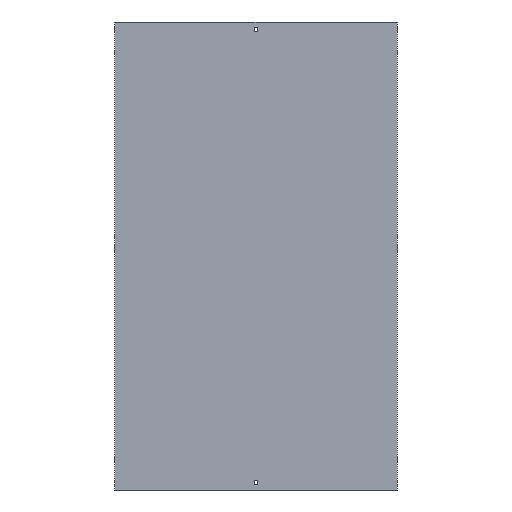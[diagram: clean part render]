
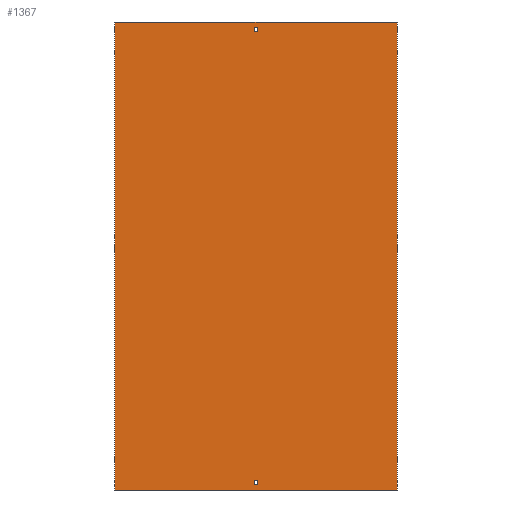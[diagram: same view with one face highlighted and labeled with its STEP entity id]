
A CAD part, front view. The second image highlights one B-rep face of the part: STEP entity #1367.
In plain terms, the highlighted planar face has unit normal (0, -1, 0).
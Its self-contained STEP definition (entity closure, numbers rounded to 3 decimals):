
#25 = VECTOR ( 'NONE', #2341, 1000. ) ;
#34 = CARTESIAN_POINT ( 'NONE',  ( 302., 0., 500. ) ) ;
#47 = CARTESIAN_POINT ( 'NONE',  ( -3.25, 0., 479. ) ) ;
#63 = ORIENTED_EDGE ( 'NONE', *, *, #2346, .F. ) ;
#72 = ORIENTED_EDGE ( 'NONE', *, *, #1962, .T. ) ;
#130 = CARTESIAN_POINT ( 'NONE',  ( -3.25, 0., 488. ) ) ;
#142 = EDGE_CURVE ( 'NONE', #599, #239, #1019, .T. ) ;
#178 = EDGE_CURVE ( 'NONE', #2197, #2073, #197, .T. ) ;
#197 = LINE ( 'NONE', #1264, #2430 ) ;
#209 = LINE ( 'NONE', #401, #25 ) ;
#214 = CARTESIAN_POINT ( 'NONE',  ( 302., 0., 500. ) ) ;
#239 = VERTEX_POINT ( 'NONE', #2756 ) ;
#315 = ORIENTED_EDGE ( 'NONE', *, *, #2106, .T. ) ;
#332 = ORIENTED_EDGE ( 'NONE', *, *, #1774, .T. ) ;
#337 = CARTESIAN_POINT ( 'NONE',  ( 3.25, 0., -488. ) ) ;
#356 = LINE ( 'NONE', #998, #1875 ) ;
#365 = FACE_BOUND ( 'NONE', #818, .T. ) ;
#377 = CARTESIAN_POINT ( 'NONE',  ( -3.25, 0., -488. ) ) ;
#388 = CARTESIAN_POINT ( 'NONE',  ( -3.25, 0., -479. ) ) ;
#394 = AXIS2_PLACEMENT_3D ( 'NONE', #2265, #544, #2024 ) ;
#401 = CARTESIAN_POINT ( 'NONE',  ( -3.25, 0., -488. ) ) ;
#488 = VERTEX_POINT ( 'NONE', #2448 ) ;
#544 = DIRECTION ( 'NONE',  ( 0., 1., 0. ) ) ;
#548 = CARTESIAN_POINT ( 'NONE',  ( -3.25, 0., -488. ) ) ;
#557 = FACE_BOUND ( 'NONE', #1972, .T. ) ;
#593 = CARTESIAN_POINT ( 'NONE',  ( 3.25, 0., 488. ) ) ;
#599 = VERTEX_POINT ( 'NONE', #792 ) ;
#621 = VERTEX_POINT ( 'NONE', #1720 ) ;
#622 = VECTOR ( 'NONE', #1777, 1000. ) ;
#644 = LINE ( 'NONE', #593, #2617 ) ;
#734 = CARTESIAN_POINT ( 'NONE',  ( 3.25, 0., 488. ) ) ;
#792 = CARTESIAN_POINT ( 'NONE',  ( -3.25, 0., -479. ) ) ;
#815 = DIRECTION ( 'NONE',  ( 0., 0., -1. ) ) ;
#818 = EDGE_LOOP ( 'NONE', ( #1719, #2108, #2407, #2615 ) ) ;
#824 = LINE ( 'NONE', #1860, #2343 ) ;
#896 = VERTEX_POINT ( 'NONE', #337 ) ;
#918 = VECTOR ( 'NONE', #2097, 1000. ) ;
#922 = LINE ( 'NONE', #1971, #622 ) ;
#933 = PLANE ( 'NONE',  #394 ) ;
#936 = LINE ( 'NONE', #1116, #1289 ) ;
#998 = CARTESIAN_POINT ( 'NONE',  ( -302., 0., 500. ) ) ;
#1019 = LINE ( 'NONE', #388, #918 ) ;
#1051 = DIRECTION ( 'NONE',  ( 0., 0., -1. ) ) ;
#1061 = VECTOR ( 'NONE', #2727, 1000. ) ;
#1075 = CARTESIAN_POINT ( 'NONE',  ( -3.25, 0., 488. ) ) ;
#1116 = CARTESIAN_POINT ( 'NONE',  ( -302., 0., -500. ) ) ;
#1187 = VERTEX_POINT ( 'NONE', #34 ) ;
#1264 = CARTESIAN_POINT ( 'NONE',  ( -3.25, 0., 479. ) ) ;
#1289 = VECTOR ( 'NONE', #1565, 1000. ) ;
#1367 = ADVANCED_FACE ( 'NONE', ( #2284, #365, #557 ), #933, .F. ) ;
#1430 = CARTESIAN_POINT ( 'NONE',  ( -302., 0., 500. ) ) ;
#1441 = EDGE_CURVE ( 'NONE', #2073, #2260, #644, .T. ) ;
#1454 = EDGE_CURVE ( 'NONE', #2103, #2197, #824, .T. ) ;
#1565 = DIRECTION ( 'NONE',  ( 1., 0., 0. ) ) ;
#1585 = CARTESIAN_POINT ( 'NONE',  ( -302., 0., 500. ) ) ;
#1719 = ORIENTED_EDGE ( 'NONE', *, *, #178, .F. ) ;
#1720 = CARTESIAN_POINT ( 'NONE',  ( -302., 0., -500. ) ) ;
#1722 = DIRECTION ( 'NONE',  ( -1., 0., 0. ) ) ;
#1759 = ORIENTED_EDGE ( 'NONE', *, *, #2075, .T. ) ;
#1774 = EDGE_CURVE ( 'NONE', #896, #2355, #209, .T. ) ;
#1777 = DIRECTION ( 'NONE',  ( 0., 0., -1. ) ) ;
#1836 = CARTESIAN_POINT ( 'NONE',  ( 3.25, 0., 479. ) ) ;
#1848 = EDGE_CURVE ( 'NONE', #2260, #2103, #2139, .T. ) ;
#1850 = DIRECTION ( 'NONE',  ( 0., 0., -1. ) ) ;
#1860 = CARTESIAN_POINT ( 'NONE',  ( -3.25, 0., 488. ) ) ;
#1875 = VECTOR ( 'NONE', #1850, 1000. ) ;
#1879 = LINE ( 'NONE', #1430, #1061 ) ;
#1892 = DIRECTION ( 'NONE',  ( 0., 0., 1. ) ) ;
#1900 = LINE ( 'NONE', #214, #2394 ) ;
#1942 = EDGE_CURVE ( 'NONE', #239, #896, #922, .T. ) ;
#1962 = EDGE_CURVE ( 'NONE', #621, #488, #936, .T. ) ;
#1971 = CARTESIAN_POINT ( 'NONE',  ( 3.25, 0., -488. ) ) ;
#1972 = EDGE_LOOP ( 'NONE', ( #1759, #2736, #2713, #332 ) ) ;
#2002 = EDGE_LOOP ( 'NONE', ( #72, #2546, #63, #315 ) ) ;
#2024 = DIRECTION ( 'NONE',  ( -1., 0., 0. ) ) ;
#2073 = VERTEX_POINT ( 'NONE', #1836 ) ;
#2075 = EDGE_CURVE ( 'NONE', #2355, #599, #2490, .T. ) ;
#2097 = DIRECTION ( 'NONE',  ( 1., 0., 0. ) ) ;
#2103 = VERTEX_POINT ( 'NONE', #130 ) ;
#2106 = EDGE_CURVE ( 'NONE', #2573, #621, #356, .T. ) ;
#2108 = ORIENTED_EDGE ( 'NONE', *, *, #1454, .F. ) ;
#2139 = LINE ( 'NONE', #1075, #2222 ) ;
#2197 = VERTEX_POINT ( 'NONE', #47 ) ;
#2222 = VECTOR ( 'NONE', #1722, 1000. ) ;
#2260 = VERTEX_POINT ( 'NONE', #734 ) ;
#2265 = CARTESIAN_POINT ( 'NONE',  ( -302., 0., 500. ) ) ;
#2284 = FACE_OUTER_BOUND ( 'NONE', #2002, .T. ) ;
#2341 = DIRECTION ( 'NONE',  ( -1., 0., 0. ) ) ;
#2343 = VECTOR ( 'NONE', #815, 1000. ) ;
#2346 = EDGE_CURVE ( 'NONE', #2573, #1187, #1879, .T. ) ;
#2355 = VERTEX_POINT ( 'NONE', #377 ) ;
#2394 = VECTOR ( 'NONE', #1051, 1000. ) ;
#2407 = ORIENTED_EDGE ( 'NONE', *, *, #1848, .F. ) ;
#2430 = VECTOR ( 'NONE', #2734, 1000. ) ;
#2434 = EDGE_CURVE ( 'NONE', #1187, #488, #1900, .T. ) ;
#2444 = VECTOR ( 'NONE', #2701, 1000. ) ;
#2448 = CARTESIAN_POINT ( 'NONE',  ( 302., 0., -500. ) ) ;
#2490 = LINE ( 'NONE', #548, #2444 ) ;
#2546 = ORIENTED_EDGE ( 'NONE', *, *, #2434, .F. ) ;
#2573 = VERTEX_POINT ( 'NONE', #1585 ) ;
#2615 = ORIENTED_EDGE ( 'NONE', *, *, #1441, .F. ) ;
#2617 = VECTOR ( 'NONE', #1892, 1000. ) ;
#2701 = DIRECTION ( 'NONE',  ( 0., 0., 1. ) ) ;
#2713 = ORIENTED_EDGE ( 'NONE', *, *, #1942, .T. ) ;
#2727 = DIRECTION ( 'NONE',  ( 1., 0., 0. ) ) ;
#2734 = DIRECTION ( 'NONE',  ( 1., 0., 0. ) ) ;
#2736 = ORIENTED_EDGE ( 'NONE', *, *, #142, .T. ) ;
#2756 = CARTESIAN_POINT ( 'NONE',  ( 3.25, 0., -479. ) ) ;
